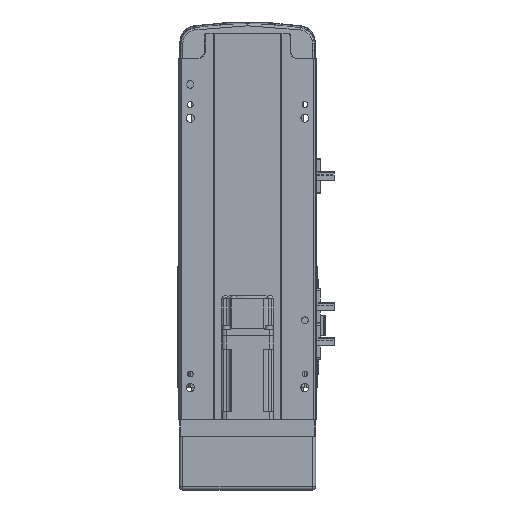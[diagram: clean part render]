
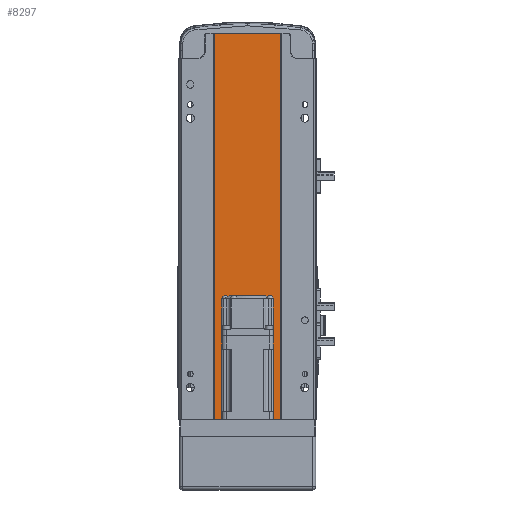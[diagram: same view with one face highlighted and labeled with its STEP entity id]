
A CAD part, front view. The second image highlights one B-rep face of the part: STEP entity #8297.
In plain terms, the highlighted planar face has unit normal (0, -1, 0).
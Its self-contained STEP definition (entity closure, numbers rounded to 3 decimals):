
#1610 = AXIS2_PLACEMENT_3D ( 'NONE', #37610, #12462, #47252 ) ;
#2678 = CARTESIAN_POINT ( 'NONE',  ( 24.5, 2., 287. ) ) ;
#8119 = ORIENTED_EDGE ( 'NONE', *, *, #45925, .T. ) ;
#8297 = ADVANCED_FACE ( 'NONE', ( #29359 ), #54867, .F. ) ;
#8721 = CARTESIAN_POINT ( 'NONE',  ( 0., 2., 0. ) ) ;
#11027 = LINE ( 'NONE', #12914, #31346 ) ;
#11779 = EDGE_LOOP ( 'NONE', ( #42383, #22855, #24781, #8119 ) ) ;
#12425 = EDGE_CURVE ( 'NONE', #44005, #14245, #51978, .T. ) ;
#12462 = DIRECTION ( 'NONE',  ( 0., 1., 0. ) ) ;
#12914 = CARTESIAN_POINT ( 'NONE',  ( -24.5, 2., 287. ) ) ;
#13049 = LINE ( 'NONE', #45021, #28594 ) ;
#13841 = VERTEX_POINT ( 'NONE', #2678 ) ;
#14007 = EDGE_CURVE ( 'NONE', #28607, #13841, #49799, .T. ) ;
#14245 = VERTEX_POINT ( 'NONE', #49299 ) ;
#21452 = CARTESIAN_POINT ( 'NONE',  ( -24.5, 2., 287. ) ) ;
#22855 = ORIENTED_EDGE ( 'NONE', *, *, #45113, .F. ) ;
#24781 = ORIENTED_EDGE ( 'NONE', *, *, #14007, .F. ) ;
#25945 = DIRECTION ( 'NONE',  ( 1., 0., 0. ) ) ;
#27573 = DIRECTION ( 'NONE',  ( 0., 0., -1. ) ) ;
#28594 = VECTOR ( 'NONE', #27573, 1000. ) ;
#28607 = VERTEX_POINT ( 'NONE', #44318 ) ;
#29359 = FACE_OUTER_BOUND ( 'NONE', #11779, .T. ) ;
#30052 = VECTOR ( 'NONE', #25945, 1000. ) ;
#31020 = CARTESIAN_POINT ( 'NONE',  ( -24.5, 2., 0. ) ) ;
#31058 = DIRECTION ( 'NONE',  ( 0., 0., -1. ) ) ;
#31346 = VECTOR ( 'NONE', #31058, 1000. ) ;
#37610 = CARTESIAN_POINT ( 'NONE',  ( 0., 2., 287. ) ) ;
#40422 = VECTOR ( 'NONE', #43537, 1000. ) ;
#42383 = ORIENTED_EDGE ( 'NONE', *, *, #12425, .T. ) ;
#43537 = DIRECTION ( 'NONE',  ( 1., 0., 0. ) ) ;
#44005 = VERTEX_POINT ( 'NONE', #31020 ) ;
#44318 = CARTESIAN_POINT ( 'NONE',  ( -24.5, 2., 287. ) ) ;
#45021 = CARTESIAN_POINT ( 'NONE',  ( 24.5, 2., 287. ) ) ;
#45113 = EDGE_CURVE ( 'NONE', #13841, #14245, #13049, .T. ) ;
#45925 = EDGE_CURVE ( 'NONE', #28607, #44005, #11027, .T. ) ;
#47252 = DIRECTION ( 'NONE',  ( 0., 0., 1. ) ) ;
#49299 = CARTESIAN_POINT ( 'NONE',  ( 24.5, 2., 0. ) ) ;
#49799 = LINE ( 'NONE', #21452, #30052 ) ;
#51978 = LINE ( 'NONE', #8721, #40422 ) ;
#54867 = PLANE ( 'NONE',  #1610 ) ;
